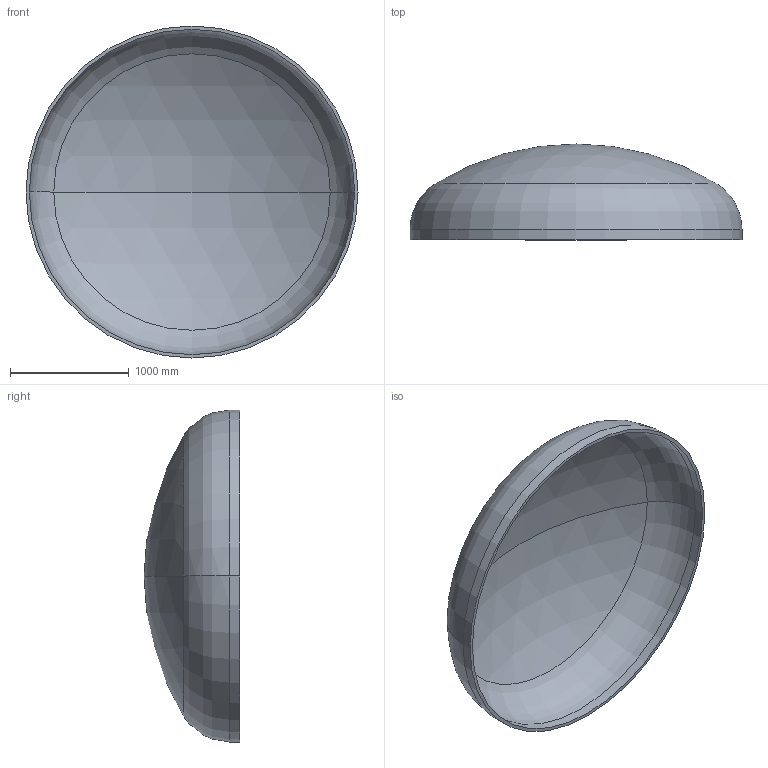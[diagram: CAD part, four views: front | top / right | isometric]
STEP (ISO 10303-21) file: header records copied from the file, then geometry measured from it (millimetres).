
FILE_DESCRIPTION (( 'STEP AP203' ), '1' );
FILE_NAME ('DIN 28013 Korbbogenform_-_Boden DIN 28013 - 2800 x 85 - I - s=28.step', '2016-07-01T16:51:18', ( '' ), ( '' ), 'SwSTEP 2.0', 'SolidWorks 2013', '' );
FILE_SCHEMA (( 'CONFIG_CONTROL_DESIGN' ));
Length unit declared in the file: millimetre
Products named in the file (1): DIN 28013 Korbbogenform_-_Boden DIN 28013 - 2800 x 85 - I - s=28
Bounding box: 2800 x 807.45 x 2800 mm (x, y, z)
Volume: 256246775.1 mm3; surface area: 18548814.2 mm2
Topology: 1 solids, 1 shells, 13 faces, 24 edges, 14 vertices
Faces by surface type: torus 4, cylinder 4, sphere 4, plane 1
Entity records: 407 total; most frequent: DIRECTION 72, CARTESIAN_POINT 52, ORIENTED_EDGE 48, AXIS2_PLACEMENT_3D 34, EDGE_CURVE 24, CIRCLE 20, EDGE_LOOP 14, VERTEX_POINT 14
